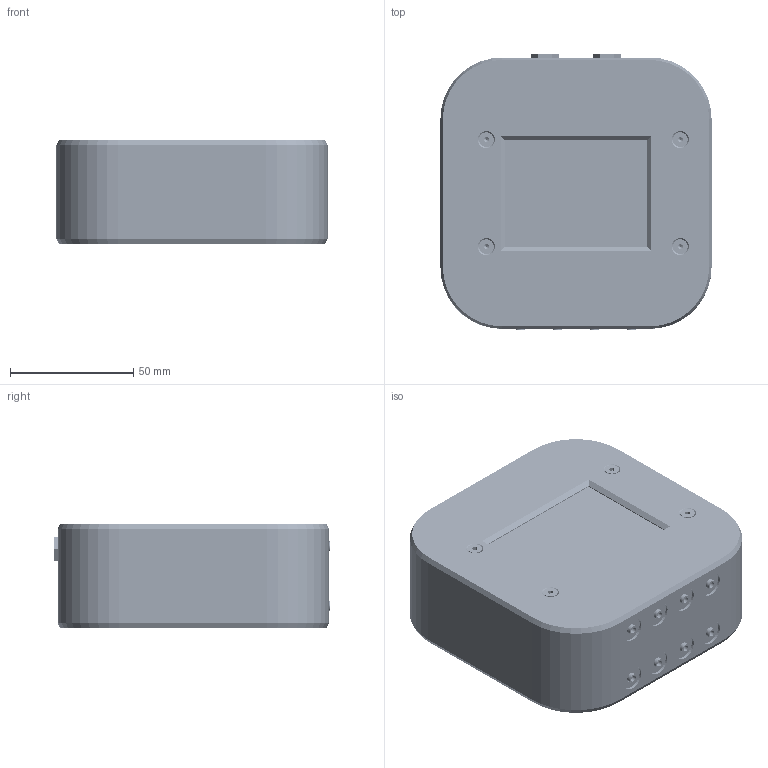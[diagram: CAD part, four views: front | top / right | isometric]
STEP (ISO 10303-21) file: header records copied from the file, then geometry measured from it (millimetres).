
FILE_DESCRIPTION(/* description */ (''),/* implementation_level */ '2;1');
FILE_NAME(/* name */ 'rpiBBQ.stp',/* time_stamp */ '2016-09-12T08:03:59+02:00',/* author */ (''),/* organization */ (''),/* preprocessor_version */ 'ST-DEVELOPER v15',/* originating_system */ 'SIEMENS PLM Software NX 8.5',/* authorisation */ '');
FILE_SCHEMA (('AUTOMOTIVE_DESIGN { 1 0 10303 214 3 1 1 1 }'));
Products named in the file (16): M_170790_0; M3_U-scheibe; Mutter_M4; M3_Mutter; M_410.007_0; Plat; Pi; BodenOrg; 2.5mmBuchse; Disp; DeckelOrg; 3_5mmBuchse; M_117710_0; Edimax; MicroUSB; rpiBBQ
Assembly tree (59 placements, depth 2):
  rpiBBQ
    MicroUSB
    Edimax
    M_117710_0  x9
    3_5mmBuchse  x2
    DeckelOrg
    Disp
    2.5mmBuchse  x8
    BodenOrg
    Pi
    Plat
    M_410.007_0  x4
    M3_Mutter  x10
    Mutter_M4  x4
    M3_U-scheibe  x14
    M_170790_0
Bounding box: 110 x 112 x 42 mm (x, y, z)
Volume: 169222.5 mm3; surface area: 126381.3 mm2
Topology: 237 solids, 237 shells, 7361 faces, 18475 edges, 11729 vertices
Faces by surface type: plane 3996, cylinder 2513, sphere 601, cone 156, bspline 91, torus 4
Full cylindrical faces by diameter (mm): 0.2 x168, 0.4 x1, 0.6 x1, 1 x44, 1.5 x84, 2.2 x2, 2.46 x9, 2.5 x19, 2.6 x8, 2.75 x4, 2.96 x10, 3 x35, 3.2 x18, 3.26 x4, 3.3 x8, 3.4 x8, 3.6 x2, 3.96 x4, 4 x20, 4.1 x8, 4.3 x8, 4.5 x4, 5 x8, 5.1 x8, 6 x18, 7 x26, 7.3 x2, 8 x6, 8.5 x4, 9 x2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
Entity records: 200264 total; most frequent: CARTESIAN_POINT 38576, DIRECTION 33440, ORIENTED_EDGE 32220, EDGE_CURVE 16110, AXIS2_PLACEMENT_3D 11399, LINE 10642, VECTOR 10642, VERTEX_POINT 10508
